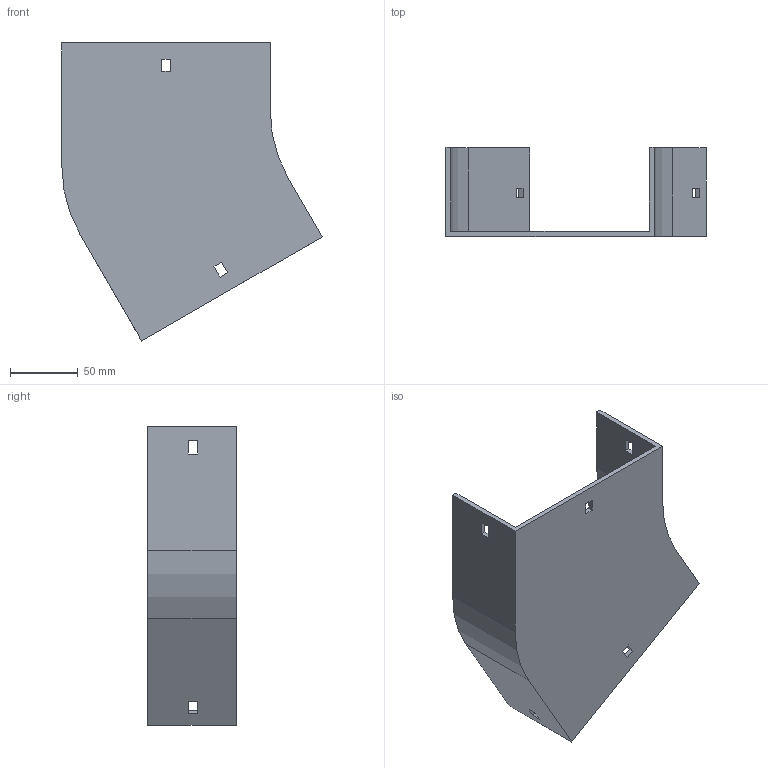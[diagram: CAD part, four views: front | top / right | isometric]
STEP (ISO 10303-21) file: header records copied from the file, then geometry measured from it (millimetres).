
FILE_DESCRIPTION (( 'STEP AP214' ), '1' );
FILE_NAME ('12B1H150.step', '2025-02-21T09:34:58', ( '' ), ( '' ), 'SwSTEP 2.0', 'SolidWorks 2023', '' );
FILE_SCHEMA (( 'AUTOMOTIVE_DESIGN' ));
Length unit declared in the file: millimetre
Products named in the file (1): 12B1H150
Bounding box: 192.4 x 65.5 x 220.3 mm (x, y, z)
Volume: 187669.7 mm3; surface area: 111234.2 mm2
Topology: 1 solids, 1 shells, 42 faces, 120 edges, 80 vertices
Faces by surface type: plane 38, cylinder 4
Entity records: 1399 total; most frequent: CARTESIAN_POINT 243, ORIENTED_EDGE 240, DIRECTION 214, EDGE_CURVE 120, VECTOR 112, LINE 112, VERTEX_POINT 80, EDGE_LOOP 54
